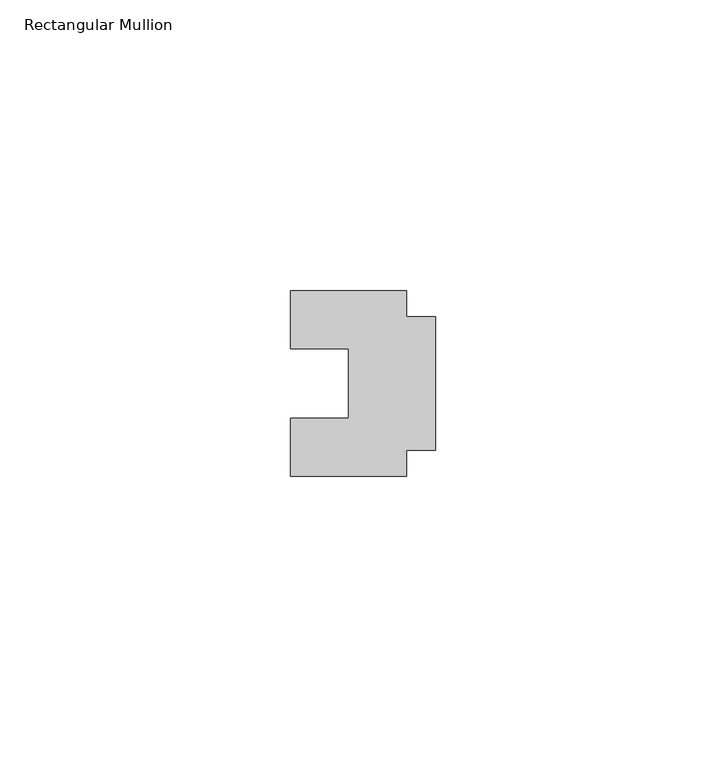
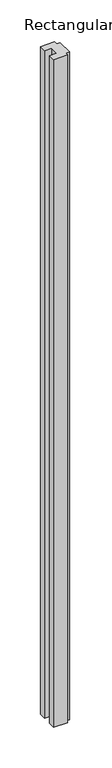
"""IFC4 building model written with IfcOpenShell, lengths in millimetres: member geometry, Rectangular Mullion : Klein_Nature_Profile-Bottom-Panel."""

from ifc_helpers import new_model, si_unit, frame, origin, place, context, project, spatial, polyline, outline, extrude, source, transform, mapped, element, save


def rectangular_mullion_a148459a(model_context):
    return source(origin(), model_context, "Body", "SweptSolid", [
        extrude(outline(polyline([(-25.0, -4.3), (-5.0, -4.3), (-5.0, -8.8), (0.0, -8.8), (0.0, -31.8), (-5.0, -31.8), (-5.0, -36.3), (-25.0, -36.3), (-25.0, -26.3), (-15.0, -26.3), (-15.0, -14.3), (-25.0, -14.3), (-25.0, -4.3)])), frame((0.0, 0.0, -1000.0000002), z_axis=(0.0, 0.0, 1.0), x_axis=(1.0, 0.0, 0.0)), (0.0, 0.0, 1.0), 1000.0000002),
    ])


if __name__ == "__main__":
    model = new_model("IFC4")
    model_context = context("Model", 3, world=origin())
    ifc_project = project(units=[si_unit("LENGTHUNIT", "METRE", prefix="MILLI")], contexts=[model_context])
    site = spatial("IfcSite", under=ifc_project)
    building = spatial("IfcBuilding", under=site)
    placement = place(None, origin())
    rectangular_mullion_shape = rectangular_mullion_a148459a(model_context)
    element("IfcMember", 1, ObjectType="Rectangular Mullion : Klein_Nature_Profile-Bottom-Panel", at=placement, inside=building, context=model_context, shape_type="MappedRepresentation", body=[
        mapped(rectangular_mullion_shape, transform((0.0, 0.0, 0.0), x_axis=(1.0, 0.0, 0.0), y_axis=(0.0, 1.0, 0.0), z_axis=(0.0, 0.0, 1.0))),
    ])
    save(model, "model.ifc")
